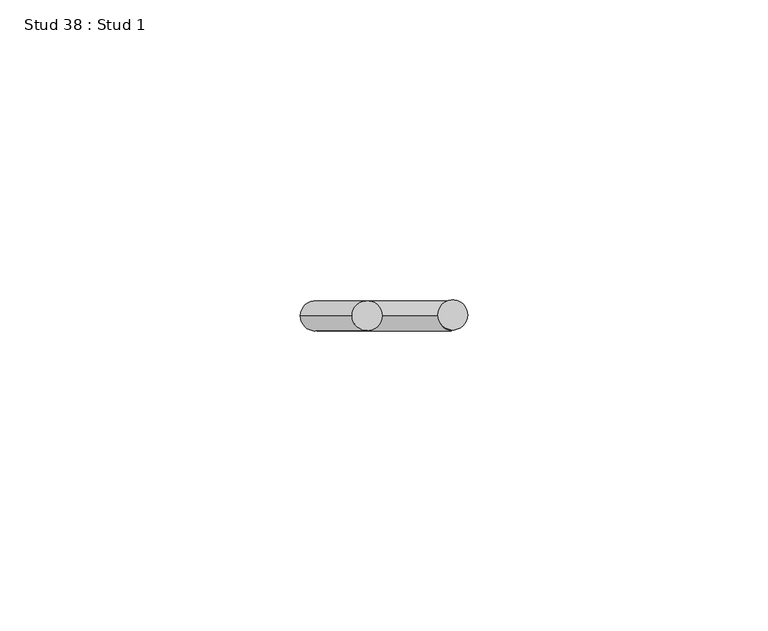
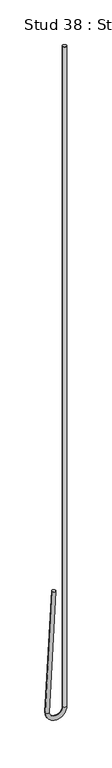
"""IFC4 building model written with IfcOpenShell, lengths in millimetres: proxy geometry, Stud 38 : Stud 1."""

from ifc_helpers import new_model, si_unit, point, frame, origin, place, context, project, spatial, circle_curve, ellipse_curve, trimmed, source, transform, mapped, element, save
from ifc_brep_helpers import plane_surface, cylinder_surface, revolved_surface, advanced_brep


def stud_38_stud_1_47fd398a(model_context):
    return source(origin(), model_context, "Body", "AdvancedBrep", [
        advanced_brep(
        [(-14671.4532788, 9596.5191481, 3640.800192), (-14666.4601311, 9596.5191481, 3640.5385122), (-14680.0939451, 9596.5191481, 3475.9264558), (-14675.1007975, 9596.5191481, 3475.664776), (-14657.1920812, 9596.5191481, 3475.7956159), (-14652.1920812, 9596.5191481, 3475.7956159), (-14652.1920812, 9596.5191481, 4390.1956159), (-14657.1920812, 9596.5191481, 4390.1956159)],
        [
            (0, 1, circle_curve(frame((-14668.9567049, 9596.5191481, 3640.6693521), z_axis=(0.05233595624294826, 0.0, 0.9986295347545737), x_axis=(0.9986295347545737, 0.0, -0.05233595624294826)), 2.5)),
            (1, 0, circle_curve(frame((-14668.9567049, 9596.5191481, 3640.6693521), z_axis=(0.05233595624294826, 0.0, 0.9986295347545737), x_axis=(0.9986295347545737, 0.0, -0.05233595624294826)), 2.5)),
            (0, 2),
            (2, 3, circle_curve(frame((-14677.5973713, 9596.5191481, 3475.7956159), z_axis=(0.05233595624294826, 0.0, 0.9986295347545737), x_axis=(0.9986295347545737, 0.0, -0.05233595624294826)), 2.5)),
            (3, 1),
            (3, 2, circle_curve(frame((-14677.5973713, 9596.5191481, 3475.7956159), z_axis=(0.05233595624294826, 0.0, 0.9986295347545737), x_axis=(0.9986295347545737, 0.0, -0.05233595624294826)), 2.5)),
            (4, 3, circle_curve(frame((-14666.1447263, 9596.5191481, 3475.7956159), z_axis=(0.0, 1.0, 0.0), x_axis=(-1.0, 0.0, 0.0)), 8.952645)),
            (2, 5, circle_curve(frame((-14666.1447263, 9596.5191481, 3475.7956159), z_axis=(0.0, -1.0, 0.0), x_axis=(-1.0, 0.0, 0.0)), 13.952645)),
            (5, 4, circle_curve(frame((-14654.6920812, 9596.5191481, 3475.7956159), z_axis=(0.0, 0.0, -1.0), x_axis=(-1.0, 0.0, 0.0)), 2.5)),
            (4, 5, circle_curve(frame((-14654.6920812, 9596.5191481, 3475.7956159), z_axis=(0.0, 0.0, -1.0), x_axis=(-1.0, 0.0, 0.0)), 2.5)),
            (6, 7, circle_curve(frame((-14654.6920812, 9596.5191481, 4390.1956159), z_axis=(0.0, 0.0, 1.0), x_axis=(-1.0, 0.0, 0.0)), 2.5)),
            (7, 6, circle_curve(frame((-14654.6920812, 9596.5191481, 4390.1956159), z_axis=(0.0, 0.0, 1.0), x_axis=(-1.0, 0.0, 0.0)), 2.5)),
            (5, 6),
            (7, 4),
        ],
        [
            plane_surface(frame((-14668.9567049, 10190.2441481, 3640.6693521), z_axis=(0.05233595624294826, 0.0, 0.9986295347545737), x_axis=(0.0, -1.0, 0.0))),
            cylinder_surface(frame((-14668.9567049, 9596.5191481, 3640.6693521), z_axis=(0.05233595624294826, 0.0, 0.9986295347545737), x_axis=(0.9986295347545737, 0.0, -0.05233595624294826)), 2.5),
            revolved_surface(trimmed(ellipse_curve(frame((-14677.5973713, 9596.5191481, 3475.7956159), z_axis=(0.0, 0.0, 1.0), x_axis=(1.0, 0.0, 0.0)), 2.5, 2.5), [point((-14680.0973713, 9596.5191481, 3475.7956159))], [point((-14675.0973713, 9596.5191481, 3475.7956159))], True, "CARTESIAN"), (-14666.1447263, 10190.2441481, 3475.7956159), (0.0, -1.0, 0.0)),
            revolved_surface(trimmed(ellipse_curve(frame((-14677.5973713, 9596.5191481, 3475.7956159), z_axis=(0.0, 0.0, 1.0), x_axis=(1.0, 0.0, 0.0)), 2.5, 2.5), [point((-14675.0973713, 9596.5191481, 3475.7956159))], [point((-14680.0973713, 9596.5191481, 3475.7956159))], True, "CARTESIAN"), (-14666.1447263, 10190.2441481, 3475.7956159), (0.0, -1.0, 0.0)),
            plane_surface(frame((-14654.6920812, 10190.2441481, 4390.1956159), z_axis=(0.0, 0.0, 1.0), x_axis=(0.0, -1.0, 0.0))),
            cylinder_surface(frame((-14654.6920812, 9596.5191481, 3475.7956159), z_axis=(0.0, 0.0, -1.0), x_axis=(-1.0, 0.0, 0.0)), 2.5),
        ],
        [
            (0, [[1, 2]]),
            (1, [[-1, 3, 4, 5]]),
            (1, [[-2, -5, 6, -3]]),
            (2, [[7, -4, 8, 9]]),
            (3, [[-8, -6, -7, 10]]),
            (4, [[11, 12]]),
            (5, [[-9, 13, -12, 14]]),
            (5, [[-10, -14, -11, -13]]),
        ],
    ),
    ])


if __name__ == "__main__":
    model = new_model("IFC4")
    model_context = context("Model", 3, world=origin())
    ifc_project = project(units=[si_unit("LENGTHUNIT", "METRE", prefix="MILLI")], contexts=[model_context])
    site = spatial("IfcSite", under=ifc_project)
    building = spatial("IfcBuilding", under=site)
    placement = place(None, origin())
    stud_38_stud_1_shape = stud_38_stud_1_47fd398a(model_context)
    element("IfcBuildingElementProxy", 1, Name="Stud 38 : Stud 1", ObjectType="Stud 38 : Stud 1", at=placement, inside=building, context=model_context, shape_type="MappedRepresentation", body=[
        mapped(stud_38_stud_1_shape, transform((0.0, 0.0, 0.0), x_axis=(1.0, 0.0, 0.0), y_axis=(0.0, 1.0, 0.0), z_axis=(0.0, 0.0, 1.0))),
    ])
    save(model, "model.ifc")
